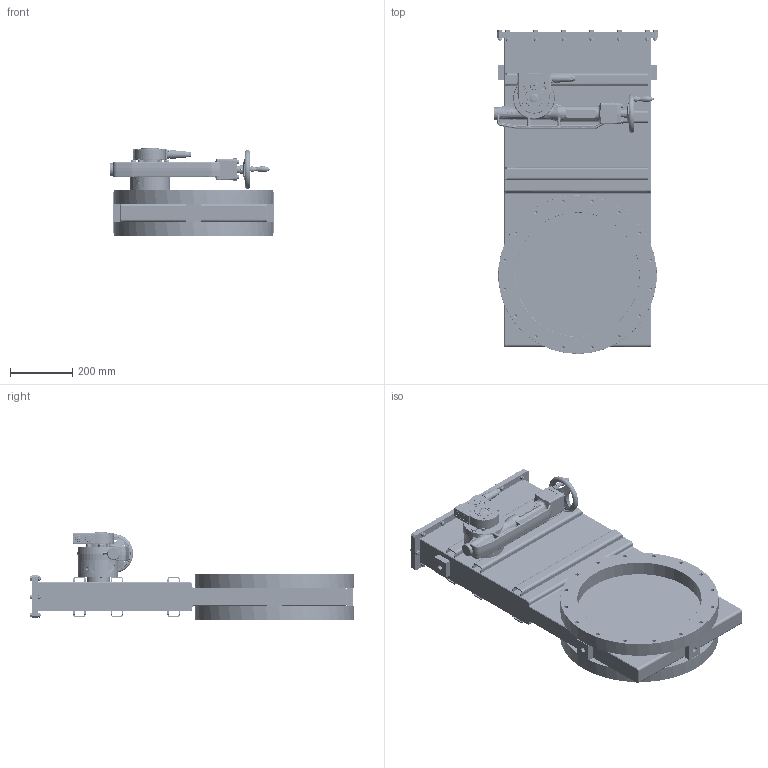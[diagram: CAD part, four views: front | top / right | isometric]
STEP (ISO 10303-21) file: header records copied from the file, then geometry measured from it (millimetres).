
FILE_DESCRIPTION((''),'2;1');
FILE_NAME('O:\MT\MT\Systeme\Cad\Datenexporte\www_vat_ch\230886.stp','2005-07-28T13:45:57',('User'),('SDRC'),'I-DEAS Master Series 9','UNIX','Yes');
FILE_SCHEMA(('CONFIG_CONTROL_DESIGN'));
Length unit declared in the file: millimetre
Assembly tree (133 placements, depth 0):
Bounding box: 529.75 x 1041.88 x 283.88 mm (x, y, z)
Volume: 18027675.4 mm3; surface area: 5510080.5 mm2
Topology: 178 solids, 178 shells, 4138 faces, 9627 edges, 6144 vertices
Faces by surface type: bspline 4138
Entity records: 94700 total; most frequent: CARTESIAN_POINT 49827, ORIENTED_EDGE 12230, EDGE_CURVE 6115, VERTEX_POINT 3909, EDGE_LOOP 2922, FACE_OUTER_BOUND 2522, ADVANCED_FACE 2522, QUASI_UNIFORM_CURVE 2246
